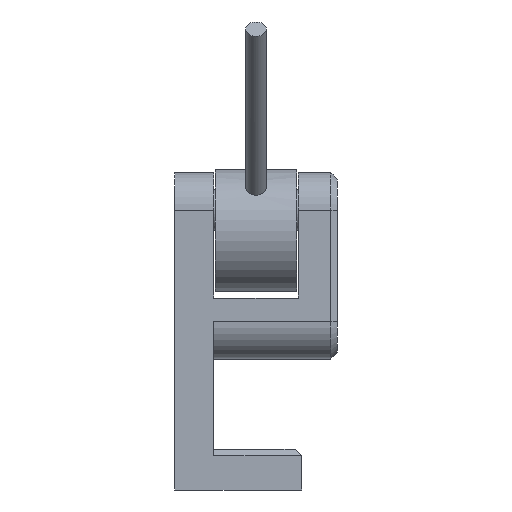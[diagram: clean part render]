
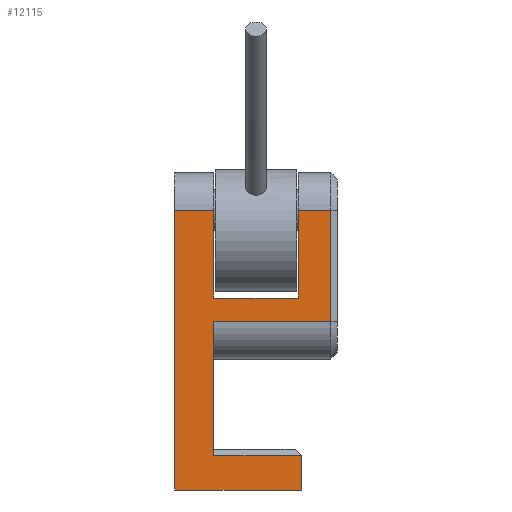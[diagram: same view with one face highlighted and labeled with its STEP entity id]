
A CAD part, left-side view. The second image highlights one B-rep face of the part: STEP entity #12115.
In plain terms, the highlighted planar face has unit normal (-1, 0, 0).
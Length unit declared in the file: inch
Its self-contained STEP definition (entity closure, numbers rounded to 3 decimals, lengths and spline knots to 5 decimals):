
#1836=CARTESIAN_POINT('',(-42.16065,-91.11261,75.7411));
#1837=VERTEX_POINT('',#1836);
#1845=CARTESIAN_POINT('',(-42.16065,-91.11261,75.2011));
#1846=VERTEX_POINT('',#1845);
#1847=CARTESIAN_POINT('',(-42.16065,-91.11261,75.2011));
#1848=DIRECTION('',(0.0,0.0,1.0));
#1849=VECTOR('',#1848,0.54);
#1850=LINE('',#1847,#1849);
#1851=EDGE_CURVE('',#1846,#1837,#1850,.T.);
#1869=CARTESIAN_POINT('',(-42.16065,-91.11261,75.0561));
#1870=VERTEX_POINT('',#1869);
#1878=CARTESIAN_POINT('',(-42.16065,-91.11261,74.2311));
#1879=VERTEX_POINT('',#1878);
#1880=CARTESIAN_POINT('',(-42.16065,-91.11261,75.0561));
#1881=DIRECTION('',(0.0,0.0,-1.0));
#1882=VECTOR('',#1881,0.825);
#1883=LINE('',#1880,#1882);
#1884=EDGE_CURVE('',#1870,#1879,#1883,.T.);
#11883=CARTESIAN_POINT('',(-42.16065,-91.65261,74.2311));
#11884=VERTEX_POINT('',#11883);
#11885=CARTESIAN_POINT('',(-42.16065,-91.11261,74.2311));
#11886=DIRECTION('',(0.0,-1.0,0.0));
#11887=VECTOR('',#11886,0.54);
#11888=LINE('',#11885,#11887);
#11889=EDGE_CURVE('',#1879,#11884,#11888,.T.);
#12015=CARTESIAN_POINT('',(-42.16065,-91.65261,74.0211));
#12016=VERTEX_POINT('',#12015);
#12017=CARTESIAN_POINT('',(-42.16065,-91.65261,74.2311));
#12018=DIRECTION('',(0.0,0.0,-1.0));
#12019=VECTOR('',#12018,0.21);
#12020=LINE('',#12017,#12019);
#12021=EDGE_CURVE('',#11884,#12016,#12020,.T.);
#12044=CARTESIAN_POINT('',(-42.16065,-91.38261,74.2086));
#12045=DIRECTION('',(1.0,0.0,0.0));
#12046=DIRECTION('',(0.0,0.0,-1.0));
#12047=AXIS2_PLACEMENT_3D('',#12044,#12045,#12046);
#12048=PLANE('',#12047);
#12049=ORIENTED_EDGE('',*,*,#11889,.F.);
#12050=ORIENTED_EDGE('',*,*,#1884,.F.);
#12051=CARTESIAN_POINT('',(-42.16065,-91.83261,75.0561));
#12052=VERTEX_POINT('',#12051);
#12053=CARTESIAN_POINT('',(-42.16065,-91.83261,75.0561));
#12054=DIRECTION('',(0.0,1.0,0.0));
#12055=VECTOR('',#12054,0.72);
#12056=LINE('',#12053,#12055);
#12057=EDGE_CURVE('',#12052,#1870,#12056,.T.);
#12058=ORIENTED_EDGE('',*,*,#12057,.F.);
#12059=CARTESIAN_POINT('',(-42.16065,-91.83261,75.7411));
#12060=VERTEX_POINT('',#12059);
#12061=CARTESIAN_POINT('',(-42.16065,-91.83261,75.7411));
#12062=DIRECTION('',(0.0,0.0,-1.0));
#12063=VECTOR('',#12062,0.685);
#12064=LINE('',#12061,#12063);
#12065=EDGE_CURVE('',#12060,#12052,#12064,.T.);
#12066=ORIENTED_EDGE('',*,*,#12065,.F.);
#12067=CARTESIAN_POINT('',(-42.16065,-91.63261,75.7411));
#12068=VERTEX_POINT('',#12067);
#12069=CARTESIAN_POINT('',(-42.16065,-91.63261,75.7411));
#12070=DIRECTION('',(0.0,-1.0,0.0));
#12071=VECTOR('',#12070,0.2);
#12072=LINE('',#12069,#12071);
#12073=EDGE_CURVE('',#12068,#12060,#12072,.T.);
#12074=ORIENTED_EDGE('',*,*,#12073,.F.);
#12075=CARTESIAN_POINT('',(-42.16065,-91.63261,75.2011));
#12076=VERTEX_POINT('',#12075);
#12077=CARTESIAN_POINT('',(-42.16065,-91.63261,75.7411));
#12078=DIRECTION('',(0.0,0.0,-1.0));
#12079=VECTOR('',#12078,0.54);
#12080=LINE('',#12077,#12079);
#12081=EDGE_CURVE('',#12068,#12076,#12080,.T.);
#12082=ORIENTED_EDGE('',*,*,#12081,.T.);
#12083=CARTESIAN_POINT('',(-42.16065,-91.63261,75.2011));
#12084=DIRECTION('',(0.0,1.0,0.0));
#12085=VECTOR('',#12084,0.52);
#12086=LINE('',#12083,#12085);
#12087=EDGE_CURVE('',#12076,#1846,#12086,.T.);
#12088=ORIENTED_EDGE('',*,*,#12087,.T.);
#12089=ORIENTED_EDGE('',*,*,#1851,.T.);
#12090=CARTESIAN_POINT('',(-42.16065,-90.87261,75.7411));
#12091=VERTEX_POINT('',#12090);
#12092=CARTESIAN_POINT('',(-42.16065,-90.87261,75.7411));
#12093=DIRECTION('',(0.0,-1.0,0.0));
#12094=VECTOR('',#12093,0.24);
#12095=LINE('',#12092,#12094);
#12096=EDGE_CURVE('',#12091,#1837,#12095,.T.);
#12097=ORIENTED_EDGE('',*,*,#12096,.F.);
#12098=CARTESIAN_POINT('',(-42.16065,-90.87261,74.0211));
#12099=VERTEX_POINT('',#12098);
#12100=CARTESIAN_POINT('',(-42.16065,-90.87261,74.0211));
#12101=DIRECTION('',(0.0,0.0,1.0));
#12102=VECTOR('',#12101,1.72);
#12103=LINE('',#12100,#12102);
#12104=EDGE_CURVE('',#12099,#12091,#12103,.T.);
#12105=ORIENTED_EDGE('',*,*,#12104,.F.);
#12106=CARTESIAN_POINT('',(-42.16065,-91.65261,74.0211));
#12107=DIRECTION('',(0.0,1.0,0.0));
#12108=VECTOR('',#12107,0.78);
#12109=LINE('',#12106,#12108);
#12110=EDGE_CURVE('',#12016,#12099,#12109,.T.);
#12111=ORIENTED_EDGE('',*,*,#12110,.F.);
#12112=ORIENTED_EDGE('',*,*,#12021,.F.);
#12113=EDGE_LOOP('',(#12049,#12050,#12058,#12066,#12074,#12082,#12088,#12089,#12097,#12105,#12111,#12112));
#12114=FACE_OUTER_BOUND('',#12113,.T.);
#12115=ADVANCED_FACE('',(#12114),#12048,.F.);
